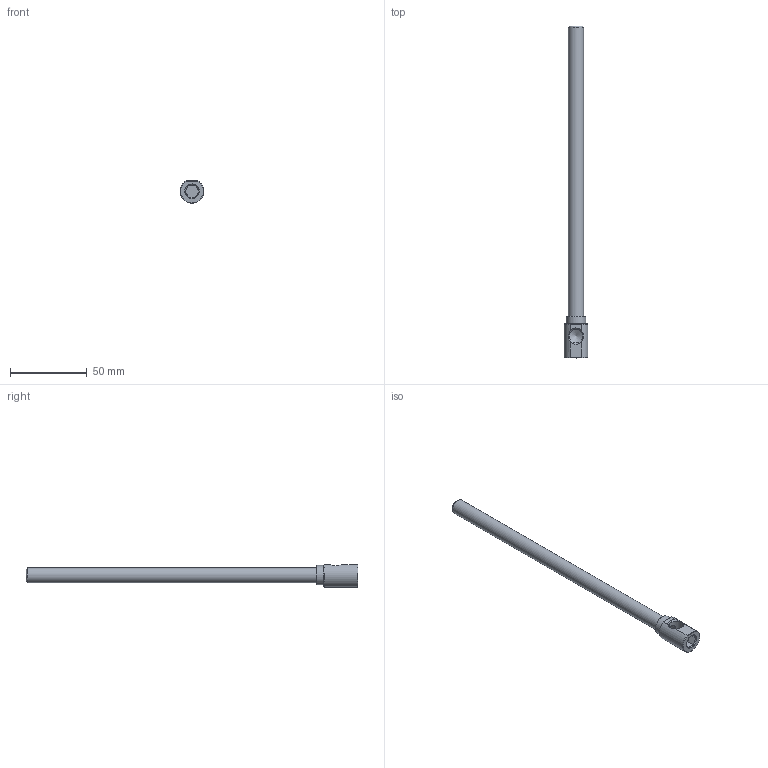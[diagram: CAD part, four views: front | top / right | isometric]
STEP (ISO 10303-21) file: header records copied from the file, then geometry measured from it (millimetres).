
FILE_DESCRIPTION(/* description */ (''),/* implementation_level */ '2;1');
FILE_NAME(/* name */ 'C:/Users/drich/Desktop/EKL18 X 8.5 v2.step',/* time_stamp */ '2019-11-18T14:40:11-06:00',/* author */ (''),/* organization */ (''),/* preprocessor_version */ 'ST-DEVELOPER v18',/* originating_system */ 'Autodesk Translation Framework v8.12.0.6',/* authorisation */ '');
FILE_SCHEMA (('AUTOMOTIVE_DESIGN { 1 0 10303 214 3 1 1 }'));
Length unit declared in the file: inch
Products named in the file (2): EKL18 X 8.5; EKL18 X 8-1/2
Assembly tree (1 placements, depth 2):
  EKL18 X 8.5
    EKL18 X 8-1/2
Bounding box: 15.49 x 215.9 x 14.48 mm (x, y, z)
Volume: 11461 mm3; surface area: 11806.1 mm2
Topology: 1 solids, 1 shells, 30 faces, 80 edges, 55 vertices
Faces by surface type: plane 16, cone 8, cylinder 6
Full cylindrical faces by diameter (mm): 6.35 x1, 9.004 x1, 9.398 x1, 9.794 x1, 12.7 x1
Entity records: 1047 total; most frequent: CARTESIAN_POINT 256, ORIENTED_EDGE 158, DIRECTION 151, EDGE_CURVE 79, AXIS2_PLACEMENT_3D 60, VERTEX_POINT 55, EDGE_LOOP 36, LINE 31
